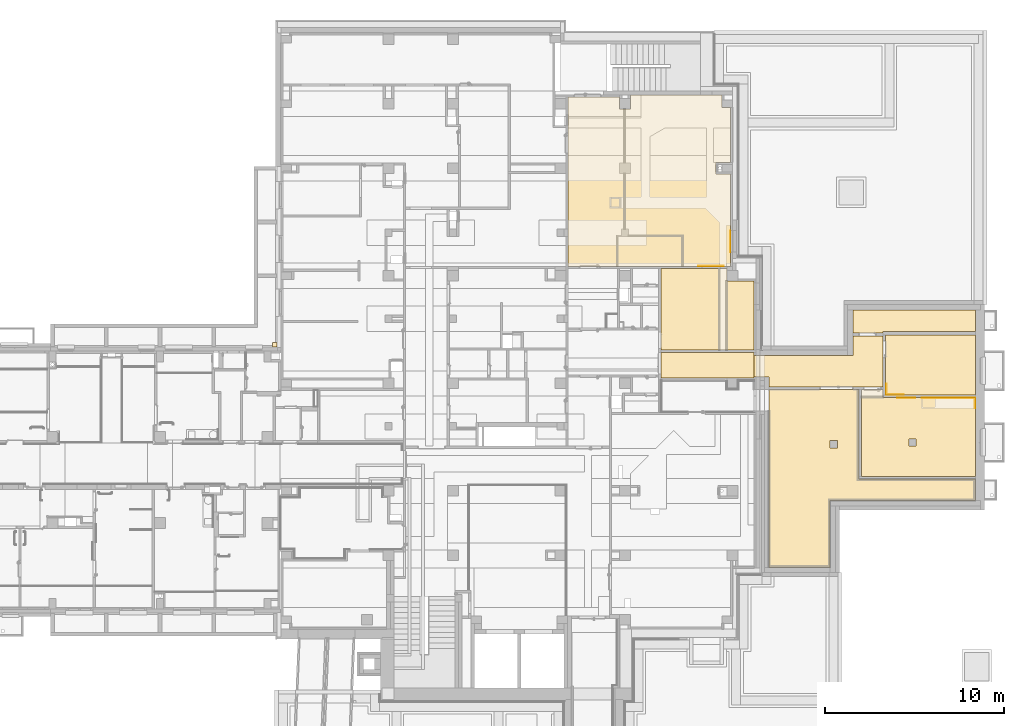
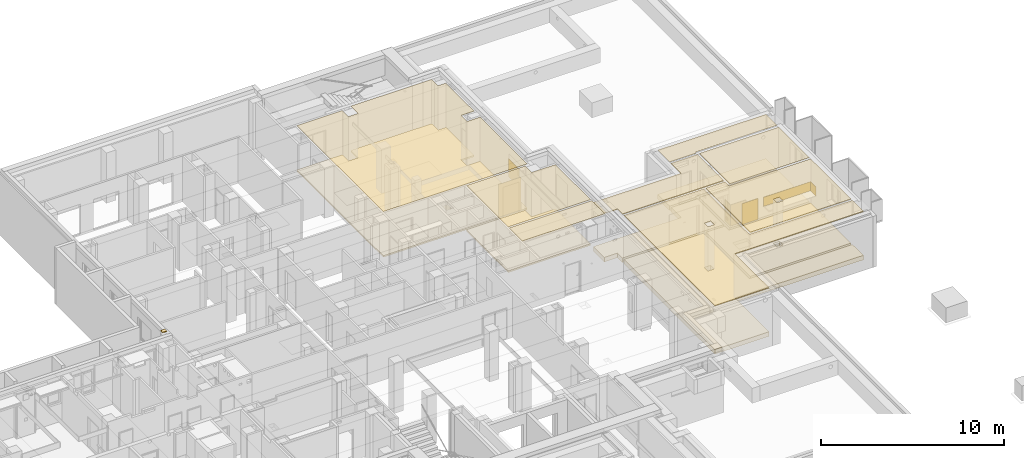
# One storey, part 78 of 84: 22 coverings.
"""IFC4 building model written with IfcOpenShell, lengths in metres."""

from ifc_helpers import new_model, entity, si_unit, converted_unit, derived_unit, frame, frame_2d, origin, origin_with_axes, place, context, subcontext, project, spatial, polyline, rectangle, outline, extrude, material, layer, layer_set, layer_usage, element, save


model = new_model("IFC4")

# Units and contexts
model_context = context("Model", 3, precision=1e-05, world=origin())
body_context = subcontext(model_context, "Body", "Model", "MODEL_VIEW")
ifc_project = project(units=[si_unit("LENGTHUNIT", "METRE"), si_unit("AREAUNIT", "SQUARE_METRE"), si_unit("VOLUMEUNIT", "CUBIC_METRE"), si_unit("MASSUNIT", "GRAM", prefix="KILO"), converted_unit("PLANEANGLEUNIT", "DEGREE", entity("IfcPlaneAngleMeasure", 0.0174532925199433), si_unit("PLANEANGLEUNIT", "RADIAN"), dimensions=[0, 0, 0, 0, 0, 0, 0]), derived_unit("THERMALTRANSMITTANCEUNIT", [(si_unit("POWERUNIT", "WATT"), 1), (si_unit("THERMODYNAMICTEMPERATUREUNIT", "KELVIN"), -1), (si_unit("LENGTHUNIT", "METRE"), -2)]), derived_unit("VOLUMETRICFLOWRATEUNIT", [(si_unit("LENGTHUNIT", "METRE"), 3), (converted_unit("TIMEUNIT", "hour", entity("IfcTimeMeasure", 3600.0), si_unit("TIMEUNIT", "SECOND"), dimensions=[0, 0, 1, 0, 0, 0, 0]), -1), (si_unit("LENGTHUNIT", "METRE"), -1)])], contexts=[model_context])

# Site, building, storey
site_placement = place(None, origin())
site = spatial("IfcSite", under=ifc_project, at=site_placement, Name="3. ASŘ", CompositionType="ELEMENT")
building_placement = place(site_placement, origin())
building = spatial("IfcBuilding", under=site, at=building_placement, Name="Pavilon C", CompositionType="ELEMENT")
storey_placement = place(building_placement, frame((0.0, 0.0, -3.3)))
storey = spatial("IfcBuildingStorey", under=building, at=storey_placement, Name="Půdorys 1.PP", CompositionType="ELEMENT", Elevation=-3.3)

# Coverings
ifc_material_1 = material(Name="KERAMICKÝ OBKLAD")
ifc_layer_1 = layer(ifc_material_1, 0.015)
ifc_layer_set_1 = layer_set([ifc_layer_1])
ifc_layer_usage_1 = layer_usage(ifc_layer_set_1, "AXIS3", "POSITIVE", 0.0)
covering_1_placement = place(storey_placement, frame((60.5000005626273, 11.8000087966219, 0.85)))
element("IfcCovering", 1, at=covering_1_placement, inside=storey, material=ifc_layer_usage_1, PredefinedType="CLADDING", context=body_context, shape_type="SweptSolid", body=[
    extrude(rectangle(XDim=0.6, YDim=0.570003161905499, at=frame_2d((-0.285001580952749, -0.3), x_axis=(0.0, -1.0))), frame((2.96992206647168, 1.81898940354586e-15, 0.0), z_axis=(0.999999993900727, 0.000110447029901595, -5.19399703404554e-21), x_axis=(0.000110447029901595, -0.999999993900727, 0.0)), (0.0, 0.0, 1.0), 0.015),
    extrude(rectangle(XDim=0.6, YDim=2.96985911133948, at=frame_2d((-1.48492955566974, -0.3), x_axis=(0.0, -1.0))), frame((2.96985911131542, 0.570003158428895, 0.0), z_axis=(-4.02546073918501e-06, 0.999999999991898, 0.0), x_axis=(0.999999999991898, 4.02546073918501e-06, 0.0)), (0.0, 0.0, 1.0), 0.015),
])
ifc_material_2 = material(Name="KERAMICKÝ OBKLAD")
ifc_layer_2 = layer(ifc_material_2, 0.015)
ifc_layer_set_2 = layer_set([ifc_layer_2])
ifc_layer_usage_2 = layer_usage(ifc_layer_set_2, "AXIS3", "POSITIVE", 0.0)
covering_2_placement = place(storey_placement, frame((58.53, 12.58, 0.1)))
element("IfcCovering", 2, at=covering_2_placement, inside=storey, material=ifc_layer_usage_2, PredefinedType="CLADDING", context=body_context, shape_type="SweptSolid", body=[
    extrude(rectangle(XDim=1.4, YDim=0.97, at=frame_2d((-0.485, -0.7), x_axis=(0.0, -1.0))), frame((0.0, 7.27595761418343e-15, 0.0), z_axis=(-5.6257404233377e-15, -1.0, 0.0), x_axis=(-1.0, 5.6257404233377e-15, 0.0)), (0.0, 0.0, 1.0), 0.015),
])
ifc_material_3 = material(Name="KERAMICKÝ OBKLAD")
ifc_layer_3 = layer(ifc_material_3, 0.015)
ifc_layer_set_3 = layer_set([ifc_layer_3])
ifc_layer_usage_3 = layer_usage(ifc_layer_set_3, "AXIS3", "POSITIVE", 0.0)
covering_3_placement = place(storey_placement, frame((59.1500004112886, 12.3700012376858, 0.1)))
element("IfcCovering", 3, at=covering_3_placement, inside=storey, material=ifc_layer_usage_3, PredefinedType="CLADDING", context=body_context, shape_type="SweptSolid", body=[
    extrude(rectangle(XDim=1.4, YDim=1.0, at=frame_2d((-0.5, -0.7), x_axis=(0.0, -1.0))), frame((1.0, 0.0, 0.0), z_axis=(0.0, 1.0, 0.0), x_axis=(1.0, 0.0, 0.0)), (0.0, 0.0, 1.0), 0.015),
])
ifc_material_4 = material(Name="KERAMICKÝ OBKLAD")
ifc_layer_4 = layer(ifc_material_4, 0.015)
ifc_layer_set_4 = layer_set([ifc_layer_4])
ifc_layer_usage_4 = layer_usage(ifc_layer_set_4, "AXIS3", "POSITIVE", 0.0)
covering_4_placement = place(storey_placement, frame((49.82, 20.52, 0.9)))
element("IfcCovering", 4, at=covering_4_placement, inside=storey, material=ifc_layer_usage_4, PredefinedType="CLADDING", context=body_context, shape_type="SweptSolid", body=[
    extrude(rectangle(XDim=1.2, YDim=1.2, at=frame_2d((-0.6, -0.6), x_axis=(0.0, -1.0))), frame((0.0, 0.0, 0.0), z_axis=(1.0, 0.0, 0.0), x_axis=(0.0, -1.0, 0.0)), (0.0, 0.0, 1.0), 0.015),
])
ifc_material_5 = material(Name="KERAMICKÝ OBKLAD")
ifc_layer_5 = layer(ifc_material_5, 0.015)
ifc_layer_set_5 = layer_set([ifc_layer_5])
ifc_layer_usage_5 = layer_usage(ifc_layer_set_5, "AXIS3", "POSITIVE", 0.0)
covering_5_placement = place(storey_placement, frame((58.53, 12.58, 0.1)))
element("IfcCovering", 5, at=covering_5_placement, inside=storey, material=ifc_layer_usage_5, PredefinedType="CLADDING", context=body_context, shape_type="SweptSolid", body=[
    extrude(rectangle(XDim=1.4, YDim=0.6, at=frame_2d((-0.3, -0.7), x_axis=(0.0, -1.0))), frame((0.0, 0.0, 0.0), z_axis=(1.0, 0.0, 0.0), x_axis=(0.0, -1.0, 0.0)), (0.0, 0.0, 1.0), 0.015),
])
ifc_material_6 = material(Name="KERAMICKÝ OBKLAD")
ifc_layer_6 = layer(ifc_material_6, 0.015)
ifc_layer_set_6 = layer_set([ifc_layer_6])
ifc_layer_usage_6 = layer_usage(ifc_layer_set_6, "AXIS3", "POSITIVE", 0.0)
covering_6_placement = place(storey_placement, frame((48.05, 19.755, 0.0)))
element("IfcCovering", 6, at=covering_6_placement, inside=storey, material=ifc_layer_usage_6, PredefinedType="CLADDING", context=body_context, shape_type="SweptSolid", body=[
    extrude(rectangle(XDim=2.2, YDim=1.4, at=frame_2d((-0.7, -1.1), x_axis=(0.0, -1.0))), frame((0.0, 0.0, 0.0), z_axis=(0.0, -1.0, 0.0), x_axis=(-1.0, 0.0, 0.0)), (0.0, 0.0, 1.0), 0.015),
])
ifc_material_7 = material(Name="SANACE BETONU")
ifc_layer_7 = layer(ifc_material_7, 0.003)
ifc_layer_set_7 = layer_set([ifc_layer_7])
ifc_layer_usage_7 = layer_usage(ifc_layer_set_7, "AXIS3", "POSITIVE", 0.0)
covering_7_placement = place(storey_placement, frame((24.275, 15.225, 3.38)))
element("IfcCovering", 7, at=covering_7_placement, inside=storey, material=ifc_layer_usage_7, PredefinedType="FLOORING", context=body_context, shape_type="SweptSolid", body=[
    extrude(rectangle(XDim=0.25, YDim=0.25, at=frame_2d((-0.125, -0.125), x_axis=(-1.0, 0.0))), frame((0.25, 0.25, 0.0), z_axis=(0.0, 0.0, 1.0), x_axis=(1.0, 0.0, 0.0)), (0.0, 0.0, 1.0), 0.003),
])

# Space
space_1_placement = place(storey_placement, frame((45.95, 13.5, -0.1)))
space_1 = spatial("IfcSpace", under=storey, at=space_1_placement, Name="-1.58", CompositionType="ELEMENT")

# Covering
ifc_material_8 = material(Name="SÁDROVÁ OMÍTKA")
ifc_layer_8 = layer(ifc_material_8, 0.015)
ifc_material_9 = material(Name="RASTR 1")
ifc_layer_9 = layer(ifc_material_9, 0.03)
ifc_layer_set_8 = layer_set([ifc_layer_8, ifc_layer_9])
ifc_layer_usage_8 = layer_usage(ifc_layer_set_8, "AXIS3", "POSITIVE", 0.0)
covering_8_placement = place(space_1_placement, frame((0.0, 0.0, 3.05)))
element("IfcCovering", 8, at=covering_8_placement, inside=space_1, material=ifc_layer_usage_8, PredefinedType="CEILING", context=body_context, shape_type="SweptSolid", body=[
    extrude(rectangle(XDim=5.2, YDim=1.425, at=frame_2d((-2.6, -0.7125), x_axis=(-1.0, 0.0))), frame((5.2, 0.0, 0.0), z_axis=(0.0, 0.0, -1.0), x_axis=(1.0, 0.0, 0.0)), (0.0, 0.0, 1.0), 0.045),
])

# Space
space_2_placement = place(storey_placement, frame((56.6788883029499, 16.0, -0.3)))
space_2 = spatial("IfcSpace", under=storey, at=space_2_placement, Name="-1.60", CompositionType="ELEMENT")

# Coverings
ifc_material_10 = material()
ifc_layer_10 = layer(ifc_material_10, 0.297)
ifc_material_11 = material(Name="EPOXIDOVÁ STĚRKA")
ifc_layer_11 = layer(ifc_material_11, 0.003)
ifc_layer_set_9 = layer_set([ifc_layer_10, ifc_layer_11])
ifc_layer_usage_9 = layer_usage(ifc_layer_set_9, "AXIS3", "POSITIVE", 0.0)
covering_9_placement = place(space_2_placement, frame((0.0, 1.81898940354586e-15, 0.0)))
element("IfcCovering", 9, at=covering_9_placement, inside=space_2, material=ifc_layer_usage_9, PredefinedType="FLOORING", context=body_context, shape_type="SweptSolid", body=[
    extrude(outline(polyline([(6.82111169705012, 1.3), (0.0, 1.3), (0.0, 0.0), (1.67111169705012, 0.0), (1.67111169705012, 0.100000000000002), (6.82111169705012, 0.0999999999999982), (6.82111169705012, 1.3)])), frame((0.0, -1.81898940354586e-15, 0.0), z_axis=(0.0, 0.0, 1.0), x_axis=(1.0, 0.0, 0.0)), (0.0, 0.0, 1.0), 0.3),
])
ifc_material_12 = material(Name="MALBA")
ifc_layer_12 = layer(ifc_material_12, 0.005)
ifc_layer_set_10 = layer_set([ifc_layer_12])
ifc_layer_usage_10 = layer_usage(ifc_layer_set_10, "AXIS3", "POSITIVE", 0.0)
covering_10_placement = place(space_2_placement, frame((0.0, 1.81898940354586e-15, 3.25)))
element("IfcCovering", 10, at=covering_10_placement, inside=space_2, material=ifc_layer_usage_10, PredefinedType="CEILING", context=body_context, shape_type="SweptSolid", body=[
    extrude(outline(polyline([(0.0, 0.0), (6.82111169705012, 3.63797880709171e-15), (6.82111169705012, 1.2), (1.67111169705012, 1.2), (1.67111169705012, 1.3), (0.0, 1.3), (0.0, 0.0)])), frame((0.0, 1.3, 0.0), z_axis=(0.0, 0.0, -1.0), x_axis=(1.0, 0.0, 0.0)), (0.0, 0.0, 1.0), 0.005),
])

# Space
space_3_placement = place(storey_placement, frame((58.5, 12.55, -0.3)))
space_3 = spatial("IfcSpace", under=storey, at=space_3_placement, Name="-1.61", CompositionType="ELEMENT")

# Coverings
ifc_material_13 = material()
ifc_layer_13 = layer(ifc_material_13, 0.295)
ifc_material_14 = material(Name="PŘÍRODNÍ LINOLEUM")
ifc_layer_14 = layer(ifc_material_14, 0.005)
ifc_layer_set_11 = layer_set([ifc_layer_13, ifc_layer_14])
ifc_layer_usage_11 = layer_usage(ifc_layer_set_11, "AXIS3", "POSITIVE", 0.0)
covering_11_placement = place(space_3_placement, origin())
element("IfcCovering", 11, at=covering_11_placement, inside=space_3, material=ifc_layer_usage_11, PredefinedType="FLOORING", context=body_context, shape_type="SweptSolid", body=[
    extrude(rectangle(XDim=5.0, YDim=3.35000000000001, at=frame_2d((-2.5, -1.675), x_axis=(-1.0, 3.63797880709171e-16))), frame((5.0, 3.35000000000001, 0.0), z_axis=(0.0, 0.0, 1.0), x_axis=(1.0, 0.0, 0.0)), (0.0, 0.0, 1.0), 0.3),
])
ifc_material_15 = material(Name="RASTR 1")
ifc_layer_15 = layer(ifc_material_15, 0.03)
ifc_layer_set_12 = layer_set([ifc_layer_15])
ifc_layer_usage_12 = layer_usage(ifc_layer_set_12, "AXIS3", "POSITIVE", 0.0)
covering_12_placement = place(space_3_placement, frame((0.0, 0.0, 3.25)))
element("IfcCovering", 12, at=covering_12_placement, inside=space_3, material=ifc_layer_usage_12, PredefinedType="CEILING", context=body_context, shape_type="SweptSolid", body=[
    extrude(rectangle(XDim=5.0, YDim=3.35000000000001, at=frame_2d((2.5, 1.67500000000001), x_axis=(1.0, 3.63797880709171e-16))), frame((0.0, 3.35000000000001, 0.0), z_axis=(0.0, 0.0, -1.0), x_axis=(1.0, 0.0, 0.0)), (0.0, 0.0, 1.0), 0.03),
])

# Space
space_4_placement = place(storey_placement, frame((57.15, 7.99999999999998, -0.3)))
space_4 = spatial("IfcSpace", under=storey, at=space_4_placement, Name="-1.62", CompositionType="ELEMENT")

# Coverings
ifc_material_16 = material()
ifc_layer_16 = layer(ifc_material_16, 0.295)
ifc_material_17 = material(Name="PŘÍRODNÍ LINOLEUM")
ifc_layer_17 = layer(ifc_material_17, 0.005)
ifc_layer_set_13 = layer_set([ifc_layer_16, ifc_layer_17])
ifc_layer_usage_13 = layer_usage(ifc_layer_set_13, "AXIS3", "POSITIVE", 0.0)
covering_13_placement = place(space_4_placement, frame((0.0, -9.09494701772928e-16, 0.0)))
element("IfcCovering", 13, at=covering_13_placement, inside=space_4, material=ifc_layer_usage_13, PredefinedType="FLOORING", context=body_context, shape_type="SweptSolid", body=[
    extrude(outline(polyline([(1.2, 4.85000000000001), (0.0, 4.85000000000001), (0.0, 1.81898940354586e-15), (6.35, 0.0), (6.35, 4.4), (1.2, 4.4), (1.2, 4.85000000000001)]), holes=[polyline([(3.05, 1.7), (2.65, 1.7), (2.65, 2.1), (3.05, 2.1), (3.05, 1.7)])]), frame((0.0, 9.09494701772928e-16, 0.0), z_axis=(0.0, 0.0, 1.0), x_axis=(1.0, 0.0, 0.0)), (0.0, 0.0, 1.0), 0.3),
])
ifc_material_18 = material(Name="RASTR 1")
ifc_layer_18 = layer(ifc_material_18, 0.03)
ifc_layer_set_14 = layer_set([ifc_layer_18])
ifc_layer_usage_14 = layer_usage(ifc_layer_set_14, "AXIS3", "POSITIVE", 0.0)
covering_14_placement = place(space_4_placement, frame((0.0, -9.09494701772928e-16, 3.25)))
element("IfcCovering", 14, at=covering_14_placement, inside=space_4, material=ifc_layer_usage_14, PredefinedType="CEILING", context=body_context, shape_type="SweptSolid", body=[
    extrude(outline(polyline([(1.2, 0.0), (1.2, 0.450000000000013), (6.35, 0.450000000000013), (6.35, 4.85000000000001), (0.0, 4.85000000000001), (0.0, 0.0), (1.2, 0.0)]), holes=[polyline([(3.05, 3.15000000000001), (3.05, 2.75000000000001), (2.65, 2.75000000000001), (2.65, 3.15000000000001), (3.05, 3.15000000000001)])]), frame((0.0, 4.85000000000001, 0.0), z_axis=(0.0, 0.0, -1.0), x_axis=(1.0, 0.0, 0.0)), (0.0, 0.0, 1.0), 0.03),
])

# Space
space_5_placement = place(storey_placement, frame((51.98, 2.93, -0.3)))
space_5 = spatial("IfcSpace", under=storey, at=space_5_placement, Name="-1.63", CompositionType="ELEMENT")

# Coverings
ifc_material_19 = material()
ifc_layer_19 = layer(ifc_material_19, 0.297)
ifc_material_20 = material(Name="EPOXIDOVÁ STĚRKA")
ifc_layer_20 = layer(ifc_material_20, 0.003)
ifc_layer_set_15 = layer_set([ifc_layer_19, ifc_layer_20])
ifc_layer_usage_15 = layer_usage(ifc_layer_set_15, "AXIS3", "POSITIVE", 0.0)
covering_15_placement = place(space_5_placement, origin())
element("IfcCovering", 15, at=covering_15_placement, inside=space_5, material=ifc_layer_usage_15, PredefinedType="FLOORING", context=body_context, shape_type="SweptSolid", body=[
    extrude(outline(polyline([(3.41999999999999, 3.71999999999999), (11.52, 3.71999999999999), (11.52, 4.91999999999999), (5.01999999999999, 4.91999999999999), (5.01999999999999, 9.92), (0.0, 9.92), (0.0, 0.0), (3.41999999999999, 0.0), (3.41999999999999, 3.71999999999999)]), holes=[polyline([(3.81999999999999, 6.66999999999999), (3.41999999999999, 6.66999999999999), (3.41999999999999, 7.06999999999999), (3.81999999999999, 7.06999999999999), (3.81999999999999, 6.66999999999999)])]), origin_with_axes(), (0.0, 0.0, 1.0), 0.3),
])
ifc_material_21 = material(Name="AKUSTICKÝ OBKLAD")
ifc_layer_21 = layer(ifc_material_21, 0.05)
ifc_layer_set_16 = layer_set([ifc_layer_21])
ifc_layer_usage_16 = layer_usage(ifc_layer_set_16, "AXIS3", "POSITIVE", 0.0)
covering_16_placement = place(space_5_placement, frame((0.0, 0.0, 3.25)))
element("IfcCovering", 16, at=covering_16_placement, inside=space_5, material=ifc_layer_usage_16, PredefinedType="CEILING", context=body_context, shape_type="SweptSolid", body=[
    extrude(outline(polyline([(3.41999999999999, 6.20000000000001), (3.41999999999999, 9.92), (0.0, 9.92), (0.0, 1.81898940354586e-15), (5.01999999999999, 0.0), (5.01999999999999, 5.00000000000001), (11.52, 5.00000000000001), (11.52, 6.20000000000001), (3.41999999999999, 6.20000000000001)]), holes=[polyline([(3.81999999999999, 3.25000000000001), (3.81999999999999, 2.85000000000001), (3.41999999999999, 2.85000000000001), (3.41999999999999, 3.25000000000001), (3.81999999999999, 3.25000000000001)])]), frame((0.0, 9.92, 0.0), z_axis=(0.0, 0.0, -1.0), x_axis=(1.0, 0.0, 0.0)), (0.0, 0.0, 1.0), 0.05),
])

# Space
space_6_placement = place(storey_placement, frame((45.95, 15.05, -0.1)))
space_6 = spatial("IfcSpace", under=storey, at=space_6_placement, Name="-1.59", CompositionType="ELEMENT")

# Coverings
ifc_material_22 = material()
ifc_layer_22 = layer(ifc_material_22, 0.095)
ifc_material_23 = material(Name="ELEKTROSTATICKÝ VINYL")
ifc_layer_23 = layer(ifc_material_23, 0.005)
ifc_layer_set_17 = layer_set([ifc_layer_22, ifc_layer_23])
ifc_layer_usage_17 = layer_usage(ifc_layer_set_17, "AXIS3", "POSITIVE", 0.0)
covering_17_placement = place(space_6_placement, origin())
element("IfcCovering", 17, at=covering_17_placement, inside=space_6, material=ifc_layer_usage_17, PredefinedType="FLOORING", context=body_context, shape_type="SweptSolid", body=[
    extrude(outline(polyline([(3.7, 3.85), (3.7, 4.55), (0.0, 4.55), (0.0, 0.0), (5.2, 0.0), (5.2, 3.85), (3.7, 3.85)])), origin_with_axes(), (0.0, 0.0, 1.0), 0.1),
])
ifc_material_24 = material(Name="SÁDROVÁ OMÍTKA")
ifc_layer_24 = layer(ifc_material_24, 0.015)
ifc_material_25 = material(Name="MALBA")
ifc_layer_25 = layer(ifc_material_25, 0.005)
ifc_layer_set_18 = layer_set([ifc_layer_24, ifc_layer_25])
ifc_layer_usage_18 = layer_usage(ifc_layer_set_18, "AXIS3", "POSITIVE", 0.0)
covering_18_placement = place(space_6_placement, frame((0.0, 0.0, 3.05)))
element("IfcCovering", 18, at=covering_18_placement, inside=space_6, material=ifc_layer_usage_18, PredefinedType="CEILING", context=body_context, shape_type="SweptSolid", body=[
    extrude(outline(polyline([(3.7, 0.0), (3.7, 0.7), (5.2, 0.7), (5.2, 4.55), (0.0, 4.55), (0.0, 0.0), (3.7, 0.0)])), frame((0.0, 4.55, 0.0), z_axis=(0.0, 0.0, -1.0), x_axis=(1.0, 0.0, 0.0)), (0.0, 0.0, 1.0), 0.02),
])

# Space
space_7_placement = place(storey_placement, frame((40.775, 19.725, -0.1)))
space_7 = spatial("IfcSpace", under=storey, at=space_7_placement, Name="-1.19", CompositionType="ELEMENT")

# Coverings
ifc_material_26 = material()
ifc_layer_26 = layer(ifc_material_26, 0.085)
ifc_material_27 = material(Name="STÁVAJÍCÍ KERAMICKÁ DLAŽBA")
ifc_layer_27 = layer(ifc_material_27, 0.015)
ifc_layer_set_19 = layer_set([ifc_layer_26, ifc_layer_27])
ifc_layer_usage_19 = layer_usage(ifc_layer_set_19, "AXIS3", "POSITIVE", 0.0)
covering_19_placement = place(space_7_placement, origin())
element("IfcCovering", 19, at=covering_19_placement, inside=space_7, material=ifc_layer_usage_19, PredefinedType="FLOORING", context=body_context, shape_type="SweptSolid", body=[
    extrude(outline(polyline([(2.875, 9.44999999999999), (0.0, 9.44999999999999), (0.0, 0.0), (9.075, 0.0), (9.075, 5.15), (8.25, 5.15), (8.25, 5.8), (9.075, 5.8), (9.075, 8.875), (8.575, 8.875), (8.575, 9.575), (3.475, 9.57499999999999), (3.475, 8.775), (2.875, 8.775), (2.875, 9.44999999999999)])), origin_with_axes(), (0.0, 0.0, 1.0), 0.1),
])
ifc_material_28 = material(Name="STÁVAJÍCÍ KAZETOVÝ PODHLED")
ifc_layer_28 = layer(ifc_material_28, 0.03)
ifc_layer_set_20 = layer_set([ifc_layer_28])
ifc_layer_usage_20 = layer_usage(ifc_layer_set_20, "AXIS3", "POSITIVE", 0.0)
covering_20_placement = place(space_7_placement, frame((0.0, 0.0, 3.05)))
element("IfcCovering", 20, at=covering_20_placement, inside=space_7, material=ifc_layer_usage_20, PredefinedType="CEILING", context=body_context, shape_type="SweptSolid", body=[
    extrude(outline(polyline([(0.0, 0.125000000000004), (2.875, 0.125000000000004), (2.875, 0.8), (3.475, 0.8), (3.475, 3.63797880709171e-15), (8.575, 0.0), (8.575, 0.7), (9.075, 0.7), (9.075, 3.775), (8.25, 3.775), (8.25, 4.425), (9.075, 4.425), (9.075, 9.575), (0.0, 9.575), (0.0, 0.125000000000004)])), frame((0.0, 9.575, 0.0), z_axis=(0.0, 0.0, -1.0), x_axis=(1.0, 0.0, 0.0)), (0.0, 0.0, 1.0), 0.03),
])

# Space
space_8_placement = place(storey_placement, frame((51.15, 13.0, -0.3)))
space_8 = spatial("IfcSpace", under=storey, at=space_8_placement, Name="-1.58", CompositionType="ELEMENT")

# Coverings
ifc_material_29 = material()
ifc_layer_29 = layer(ifc_material_29, 0.295)
ifc_material_30 = material(Name="PŘÍRODNÍ LINOLEUM")
ifc_layer_30 = layer(ifc_material_30, 0.005)
ifc_layer_set_21 = layer_set([ifc_layer_29, ifc_layer_30])
ifc_layer_usage_21 = layer_usage(ifc_layer_set_21, "AXIS3", "POSITIVE", 0.0)
covering_21_placement = place(space_8_placement, origin())
element("IfcCovering", 21, at=covering_21_placement, inside=space_8, material=ifc_layer_usage_21, Name="I.P5", PredefinedType="FLOORING", context=body_context, shape_type="SweptSolid", body=[
    extrude(outline(polyline([(7.19999999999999, 0.0), (7.19999999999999, 2.84999999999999), (5.52888830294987, 2.84999999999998), (5.52888830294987, 1.75), (0.0, 1.75), (0.0, 0.550000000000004), (0.83, 0.55), (0.83, 0.0), (7.19999999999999, 0.0)])), origin_with_axes(), (0.0, 0.0, 1.0), 0.3),
])
ifc_material_31 = material(Name="SÁDROVÁ OMÍTKA")
ifc_layer_31 = layer(ifc_material_31, 0.015)
ifc_material_32 = material(Name="RASTR 1")
ifc_layer_32 = layer(ifc_material_32, 0.03)
ifc_layer_set_22 = layer_set([ifc_layer_31, ifc_layer_32])
ifc_layer_usage_22 = layer_usage(ifc_layer_set_22, "AXIS3", "POSITIVE", 0.0)
covering_22_placement = place(space_8_placement, frame((0.0, 0.0, 3.25)))
element("IfcCovering", 22, at=covering_22_placement, inside=space_8, material=ifc_layer_usage_22, PredefinedType="CEILING", context=body_context, shape_type="SweptSolid", body=[
    extrude(outline(polyline([(7.19999999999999, 0.0), (7.19999999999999, 2.84999999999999), (0.83, 2.84999999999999), (0.83, 2.29999999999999), (0.0, 2.29999999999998), (0.0, 1.09999999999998), (5.52888830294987, 1.09999999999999), (5.52888830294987, 3.63797880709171e-15), (7.19999999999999, 0.0)])), frame((0.0, 2.84999999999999, 0.0), z_axis=(0.0, 0.0, -1.0), x_axis=(1.0, 0.0, 0.0)), (0.0, 0.0, 1.0), 0.045),
])

save(model, "model.ifc")
